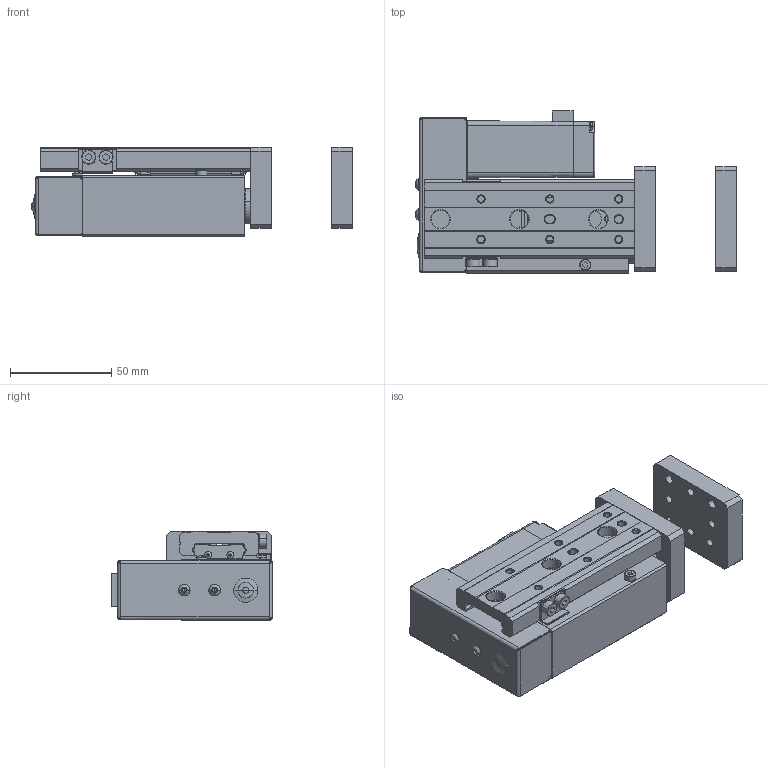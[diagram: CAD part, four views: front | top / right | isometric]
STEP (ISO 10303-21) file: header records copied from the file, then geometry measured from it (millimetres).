
FILE_DESCRIPTION (( 'STEP AP203' ), '1' );
FILE_NAME ('CSS12R-xx-40-xx-CSO-xx-xx.STEP', '2024-10-18T06:30:50', ( 'Windows User' ), ( 'P R C' ), 'SwSTEP 2.0', 'SolidWorks 2018', '' );
FILE_SCHEMA (( 'CONFIG_CONTROL_DESIGN' ));
Length unit declared in the file: millimetre
Products named in the file (17): 复件 COVER END^SS12R-1.5-40（客用）; 复件 MOTOR PLATE^SS12R-1.5-40（客用）; 复件 内六角圆头螺钉M3^SS12R-1.5-40（客用）; 复件 十字槽盘头螺钉YM3-6^SS12R-1.5-40（客用）; 复件 (2) 28闭环步进电机-客用3D^SS12R-1.5-40（客用）; 复件 内六角杯头螺钉M4-12^SS12R-1.5-40（客用）; CSS12R-xx-40-xx-CSO-xx-xx; 复件 内六角杯头螺钉M4-8^SS12R-1.5-40（客用）; 复件 RB-ES23002-B002-02  BLOCK（MXQ12-40滑块）^SS12R-1.5-40（客用）; 复件 RB-ES23002-P002-02  安装板（右折）^SS12R-1.5-40（客用）; 复件 RB-ES23002-B002-03  RAIL（MXQ12-50-滑台）^SS12R-1.5-40（客用）; 复件 RB-ES23002-P007-01  限位块^SS12R-1.5-40（客用）; 复件 内六角杯头螺钉M3-6^SS12R-1.5-40（客用）; 复件 SVS-23RB12SL-B010  堵头塞子（φ8宽边带槽型）^SS12R-1.5-40（客用）; 复件 内六角杯头螺钉M4-10^SS12R-1.5-40（客用）; 复件 RB-ES23002-P001-08  FRAME（右折，ST=40）^SS12R-1.5-40（客用）; 复件 RB-ES23002-P006  连接件^SS12R-1.5-40（客用）
Assembly tree (21 placements, depth 2):
  CSS12R-xx-40-xx-CSO-xx-xx
    复件 RB-ES23002-P001-08  FRAME（右折，ST=40）^SS12R-1.5-40（客用）
    复件 RB-ES23002-P002-02  安装板（右折）^SS12R-1.5-40（客用）  x2
    复件 RB-ES23002-P006  连接件^SS12R-1.5-40（客用）
    复件 RB-ES23002-B002-03  RAIL（MXQ12-50-滑台）^SS12R-1.5-40（客用）
    复件 RB-ES23002-B002-02  BLOCK（MXQ12-40滑块）^SS12R-1.5-40（客用）
    复件 内六角杯头螺钉M4-12^SS12R-1.5-40（客用）  x2
    复件 内六角杯头螺钉M3-6^SS12R-1.5-40（客用）  x2
    复件 内六角杯头螺钉M4-10^SS12R-1.5-40（客用）
    复件 十字槽盘头螺钉YM3-6^SS12R-1.5-40（客用）
    复件 内六角杯头螺钉M4-8^SS12R-1.5-40（客用）  x2
    复件 RB-ES23002-P007-01  限位块^SS12R-1.5-40（客用）
    复件 SVS-23RB12SL-B010  堵头塞子（φ8宽边带槽型）^SS12R-1.5-40（客用）
    复件 (2) 28闭环步进电机-客用3D^SS12R-1.5-40（客用）
    复件 COVER END^SS12R-1.5-40（客用）
    复件 MOTOR PLATE^SS12R-1.5-40（客用）
    复件 内六角圆头螺钉M3^SS12R-1.5-40（客用）  x2
Bounding box: 158.15 x 79.95 x 44 mm (x, y, z)
Volume: 250912.8 mm3; surface area: 83082.8 mm2
Topology: 63 solids, 63 shells, 1275 faces, 3176 edges, 1914 vertices
Faces by surface type: plane 541, cylinder 362, cone 224, bspline 108, torus 34, sphere 6
Entity records: 38487 total; most frequent: CARTESIAN_POINT 9998, DIRECTION 5609, ORIENTED_EDGE 5398, EDGE_CURVE 2699, AXIS2_PLACEMENT_3D 2038, VERTEX_POINT 1726, VECTOR 1533, LINE 1533
